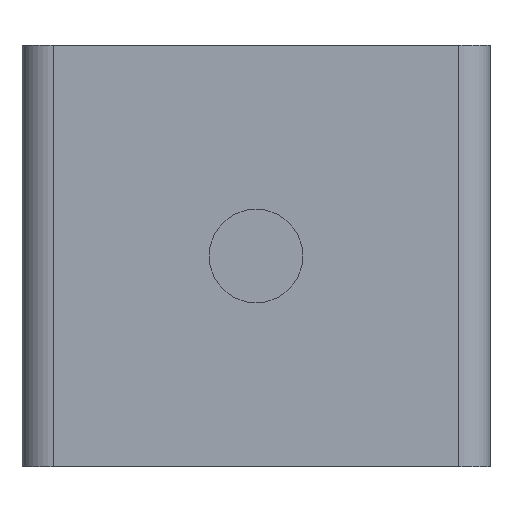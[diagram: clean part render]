
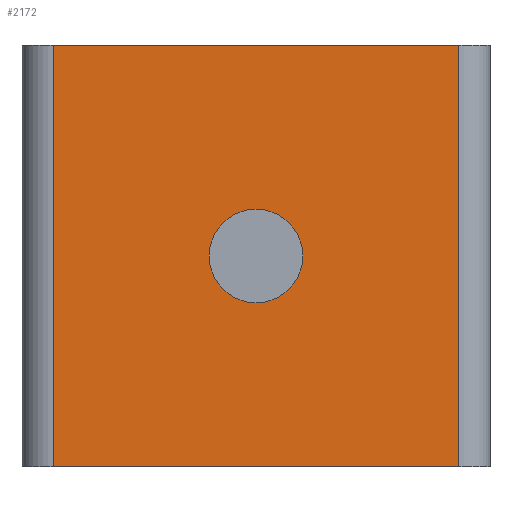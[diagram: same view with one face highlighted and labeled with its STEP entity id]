
A CAD part, front view. The second image highlights one B-rep face of the part: STEP entity #2172.
In plain terms, the highlighted planar face has unit normal (0, -1, 0).
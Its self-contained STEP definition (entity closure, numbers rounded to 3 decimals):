
#9 = CARTESIAN_POINT ( 'NONE',  ( 0., -50.6, -16.5 ) ) ;
#52 = VERTEX_POINT ( 'NONE', #2887 ) ;
#171 = DIRECTION ( 'NONE',  ( 0., 0., 1. ) ) ;
#188 = ORIENTED_EDGE ( 'NONE', *, *, #1914, .F. ) ;
#235 = VERTEX_POINT ( 'NONE', #1283 ) ;
#337 = CIRCLE ( 'NONE', #2716, 3. ) ;
#523 = CIRCLE ( 'NONE', #2891, 3. ) ;
#548 = LINE ( 'NONE', #2290, #1163 ) ;
#654 = EDGE_CURVE ( 'NONE', #1871, #1910, #523, .T. ) ;
#671 = LINE ( 'NONE', #1246, #2485 ) ;
#687 = CARTESIAN_POINT ( 'NONE',  ( 0., -50.6, 0. ) ) ;
#776 = DIRECTION ( 'NONE',  ( 1., 0., 0. ) ) ;
#852 = CARTESIAN_POINT ( 'NONE',  ( -13., -50.6, -27. ) ) ;
#933 = DIRECTION ( 'NONE',  ( 0., -1., 0. ) ) ;
#935 = DIRECTION ( 'NONE',  ( 0., 0., -1. ) ) ;
#958 = LINE ( 'NONE', #687, #2095 ) ;
#1042 = EDGE_CURVE ( 'NONE', #1950, #2867, #671, .T. ) ;
#1058 = ORIENTED_EDGE ( 'NONE', *, *, #1458, .F. ) ;
#1163 = VECTOR ( 'NONE', #935, 1000. ) ;
#1246 = CARTESIAN_POINT ( 'NONE',  ( -13., -50.6, -13.5 ) ) ;
#1262 = ORIENTED_EDGE ( 'NONE', *, *, #654, .F. ) ;
#1270 = FACE_OUTER_BOUND ( 'NONE', #1364, .T. ) ;
#1283 = CARTESIAN_POINT ( 'NONE',  ( 13., -50.6, 0. ) ) ;
#1301 = DIRECTION ( 'NONE',  ( 0., 1., 0. ) ) ;
#1329 = ORIENTED_EDGE ( 'NONE', *, *, #1459, .T. ) ;
#1364 = EDGE_LOOP ( 'NONE', ( #1483, #1837, #188, #1329 ) ) ;
#1453 = CARTESIAN_POINT ( 'NONE',  ( -13., -50.6, -27. ) ) ;
#1458 = EDGE_CURVE ( 'NONE', #1910, #1871, #337, .T. ) ;
#1459 = EDGE_CURVE ( 'NONE', #235, #1950, #958, .T. ) ;
#1483 = ORIENTED_EDGE ( 'NONE', *, *, #1042, .T. ) ;
#1538 = DIRECTION ( 'NONE',  ( 0., -1., 0. ) ) ;
#1605 = DIRECTION ( 'NONE',  ( -1., 0., 0. ) ) ;
#1800 = EDGE_LOOP ( 'NONE', ( #1058, #1262 ) ) ;
#1830 = VECTOR ( 'NONE', #776, 1000. ) ;
#1837 = ORIENTED_EDGE ( 'NONE', *, *, #2893, .T. ) ;
#1871 = VERTEX_POINT ( 'NONE', #9 ) ;
#1910 = VERTEX_POINT ( 'NONE', #2758 ) ;
#1914 = EDGE_CURVE ( 'NONE', #235, #52, #548, .T. ) ;
#1950 = VERTEX_POINT ( 'NONE', #2811 ) ;
#1965 = PLANE ( 'NONE',  #2375 ) ;
#2095 = VECTOR ( 'NONE', #1605, 1000. ) ;
#2172 = ADVANCED_FACE ( 'NONE', ( #2405, #1270 ), #1965, .F. ) ;
#2285 = CARTESIAN_POINT ( 'NONE',  ( 0., -50.6, -13.5 ) ) ;
#2290 = CARTESIAN_POINT ( 'NONE',  ( 13., -50.6, -13.5 ) ) ;
#2363 = CARTESIAN_POINT ( 'NONE',  ( 0., -50.6, -27. ) ) ;
#2375 = AXIS2_PLACEMENT_3D ( 'NONE', #852, #1301, #2915 ) ;
#2405 = FACE_BOUND ( 'NONE', #1800, .T. ) ;
#2435 = LINE ( 'NONE', #2363, #1830 ) ;
#2485 = VECTOR ( 'NONE', #2854, 1000. ) ;
#2510 = DIRECTION ( 'NONE',  ( 0., 0., 1. ) ) ;
#2716 = AXIS2_PLACEMENT_3D ( 'NONE', #2285, #933, #2510 ) ;
#2758 = CARTESIAN_POINT ( 'NONE',  ( 0., -50.6, -10.5 ) ) ;
#2811 = CARTESIAN_POINT ( 'NONE',  ( -13., -50.6, 0. ) ) ;
#2854 = DIRECTION ( 'NONE',  ( 0., 0., -1. ) ) ;
#2867 = VERTEX_POINT ( 'NONE', #1453 ) ;
#2887 = CARTESIAN_POINT ( 'NONE',  ( 13., -50.6, -27. ) ) ;
#2891 = AXIS2_PLACEMENT_3D ( 'NONE', #2917, #1538, #171 ) ;
#2893 = EDGE_CURVE ( 'NONE', #2867, #52, #2435, .T. ) ;
#2915 = DIRECTION ( 'NONE',  ( 0., 0., 1. ) ) ;
#2917 = CARTESIAN_POINT ( 'NONE',  ( 0., -50.6, -13.5 ) ) ;
